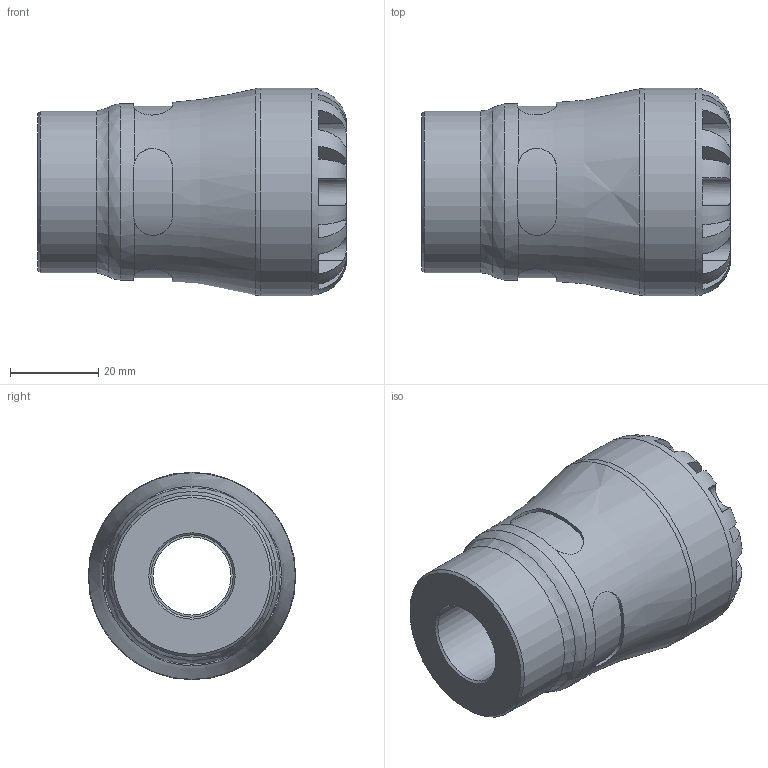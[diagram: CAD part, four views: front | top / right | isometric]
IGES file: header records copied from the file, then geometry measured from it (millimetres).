
Global section: file name: 100300025005_190300025005.ipt; native system: Autodesk Inventor 2015; preprocessor: unknown; author: KIM; date: 20170122.094938; units: millimetre
Bounding box: 70 x 47 x 47 mm (x, y, z)
Volume: 64582.1 mm3; surface area: 17392.1 mm2
Topology: 1 solids, 1 shells, 104 faces, 279 edges, 180 vertices
Faces by surface type: plane 61, revolution 27, cylinder 15, cone 1
Full cylindrical faces by diameter (mm): 36.66 x1, 39.95 x1, 47 x1
